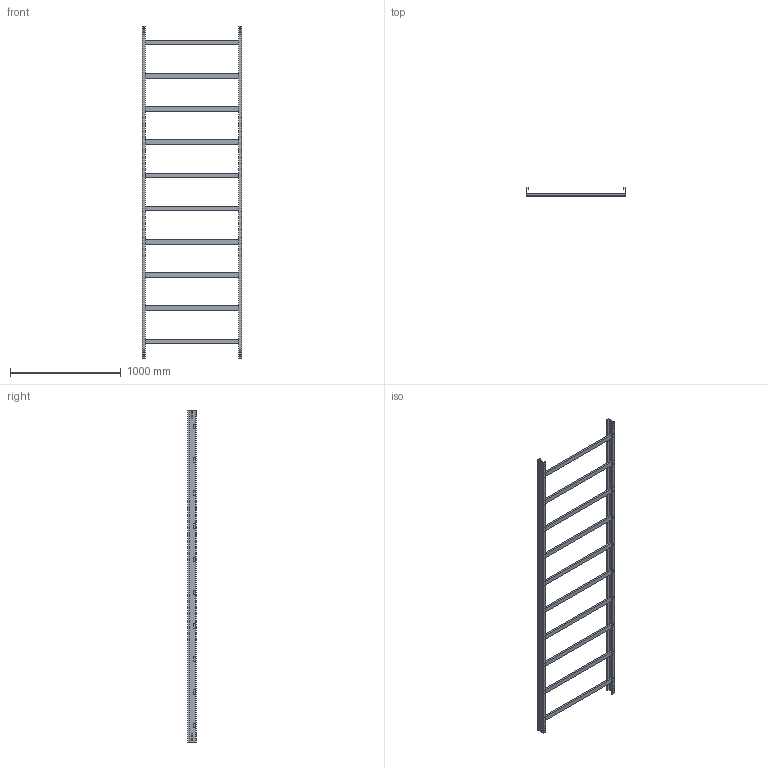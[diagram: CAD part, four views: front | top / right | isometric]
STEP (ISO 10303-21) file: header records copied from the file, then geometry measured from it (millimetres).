
FILE_DESCRIPTION (( 'STEP AP214' ), '1' );
FILE_NAME ('01B3C900.step', '2025-02-21T16:01:10', ( '' ), ( '' ), 'SwSTEP 2.0', 'SolidWorks 2023', '' );
FILE_SCHEMA (( 'AUTOMOTIVE_DESIGN' ));
Length unit declared in the file: millimetre
Products named in the file (3): LONGH.H75; TRAVERSINO_900; 01B3C900
Assembly tree (12 placements, depth 2):
  01B3C900
    LONGH.H75  x2
    TRAVERSINO_900  x10
Bounding box: 900 x 75 x 3000 mm (x, y, z)
Volume: 9604672 mm3; surface area: 2514856 mm2
Topology: 12 solids, 12 shells, 144 faces, 360 edges, 240 vertices
Faces by surface type: plane 144
Entity records: 1696 total; most frequent: CARTESIAN_POINT 283, ORIENTED_EDGE 264, DIRECTION 258, EDGE_CURVE 132, LINE 132, VECTOR 132, VERTEX_POINT 88, EDGE_LOOP 64
